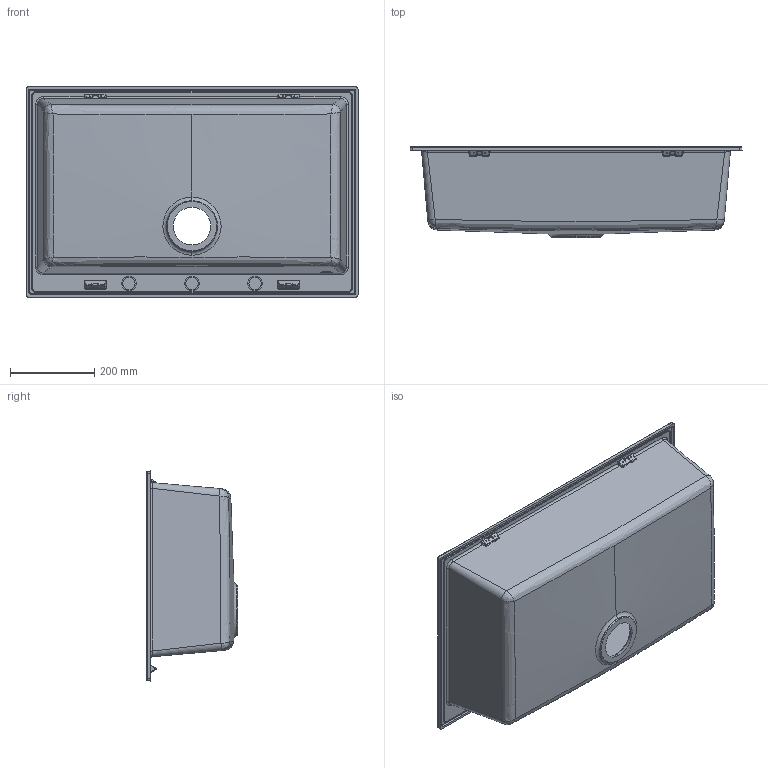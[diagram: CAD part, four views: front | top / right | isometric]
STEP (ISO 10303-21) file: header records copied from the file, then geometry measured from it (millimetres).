
FILE_DESCRIPTION (( 'STEP AP203' ), '1' );
FILE_NAME ('Quadra130.STEP', '2018-11-14T15:22:59', ( '' ), ( '' ), 'SwSTEP 2.0', 'SolidWorks 2013', '' );
FILE_SCHEMA (( 'CONFIG_CONTROL_DESIGN' ));
Length unit declared in the file: millimetre
Products named in the file (1): Quadra130
Bounding box: 790 x 216.69 x 500 mm (x, y, z)
Volume: 6175918.7 mm3; surface area: 1541341 mm2
Topology: 1 solids, 1 shells, 405 faces, 961 edges, 534 vertices
Faces by surface type: cylinder 156, bspline 147, plane 50, cone 26, torus 14, sphere 12
Entity records: 17320 total; most frequent: CARTESIAN_POINT 9357, ORIENTED_EDGE 1818, DIRECTION 1458, EDGE_CURVE 909, AXIS2_PLACEMENT_3D 588, VERTEX_POINT 526, EDGE_LOOP 429, ADVANCED_FACE 405
